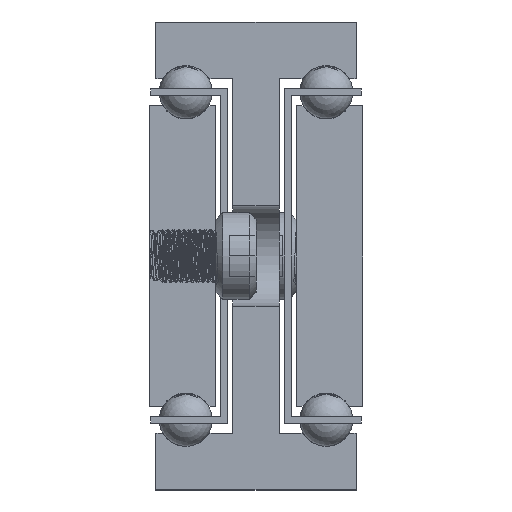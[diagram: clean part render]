
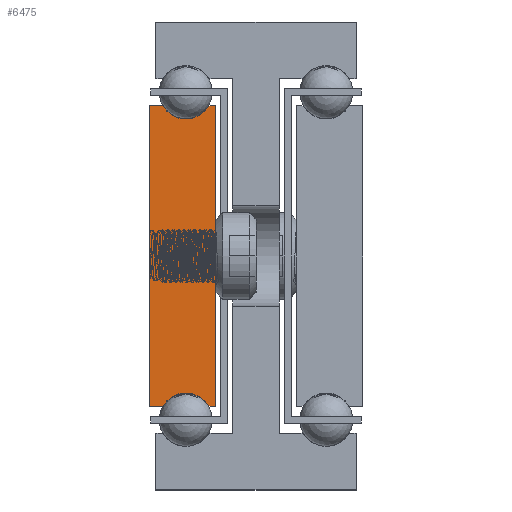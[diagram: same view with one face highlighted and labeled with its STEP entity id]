
A CAD part, front view. The second image highlights one B-rep face of the part: STEP entity #6475.
In plain terms, the highlighted planar face has unit normal (0, -1, 0).
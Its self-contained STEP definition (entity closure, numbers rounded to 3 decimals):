
#1037=CIRCLE('',#6959,4.);
#1039=CIRCLE('',#6965,4.);
#1569=FACE_OUTER_BOUND('',#1989,.T.);
#1989=EDGE_LOOP('',(#5126,#5127,#5128,#5129,#5130,#5131,#5132,#5133));
#2668=LINE('',#97193,#2880);
#2671=LINE('',#97199,#2883);
#2675=LINE('',#97211,#2887);
#2678=LINE('',#97217,#2890);
#2681=LINE('',#97223,#2893);
#2685=LINE('',#97233,#2897);
#2880=VECTOR('',#7778,1.);
#2883=VECTOR('',#7783,1.);
#2887=VECTOR('',#7795,1.);
#2890=VECTOR('',#7800,1.);
#2893=VECTOR('',#7805,1.);
#2897=VECTOR('',#7817,1.);
#3180=VERTEX_POINT('',#97190);
#3181=VERTEX_POINT('',#97192);
#3183=VERTEX_POINT('',#97198);
#3185=VERTEX_POINT('',#97204);
#3187=VERTEX_POINT('',#97210);
#3189=VERTEX_POINT('',#97216);
#3191=VERTEX_POINT('',#97222);
#3193=VERTEX_POINT('',#97228);
#4002=EDGE_CURVE('',#3181,#3180,#2668,.T.);
#4005=EDGE_CURVE('',#3183,#3181,#2671,.T.);
#4008=EDGE_CURVE('',#3185,#3183,#1037,.T.);
#4011=EDGE_CURVE('',#3187,#3185,#2675,.T.);
#4014=EDGE_CURVE('',#3189,#3187,#2678,.T.);
#4017=EDGE_CURVE('',#3191,#3189,#2681,.T.);
#4020=EDGE_CURVE('',#3193,#3191,#1039,.T.);
#4023=EDGE_CURVE('',#3180,#3193,#2685,.T.);
#5126=ORIENTED_EDGE('',*,*,#4023,.T.);
#5127=ORIENTED_EDGE('',*,*,#4020,.T.);
#5128=ORIENTED_EDGE('',*,*,#4017,.T.);
#5129=ORIENTED_EDGE('',*,*,#4014,.T.);
#5130=ORIENTED_EDGE('',*,*,#4011,.T.);
#5131=ORIENTED_EDGE('',*,*,#4008,.T.);
#5132=ORIENTED_EDGE('',*,*,#4005,.T.);
#5133=ORIENTED_EDGE('',*,*,#4002,.T.);
#6329=PLANE('',#6968);
#6475=ADVANCED_FACE('',(#1569),#6329,.T.);
#6959=AXIS2_PLACEMENT_3D('',#97205,#7789,#7790);
#6965=AXIS2_PLACEMENT_3D('',#97229,#7811,#7812);
#6968=AXIS2_PLACEMENT_3D('',#97235,#7820,#7821);
#7778=DIRECTION('',(0.,0.,-1.));
#7783=DIRECTION('',(-1.,0.,0.));
#7789=DIRECTION('center_axis',(0.,1.,0.));
#7790=DIRECTION('ref_axis',(-0.866,0.,-0.5));
#7795=DIRECTION('',(-1.,0.,0.));
#7800=DIRECTION('',(0.,0.,1.));
#7805=DIRECTION('',(1.,0.,0.));
#7811=DIRECTION('center_axis',(0.,1.,0.));
#7812=DIRECTION('ref_axis',(0.866,0.,0.5));
#7817=DIRECTION('',(1.,0.,0.));
#7820=DIRECTION('center_axis',(0.,-1.,0.));
#7821=DIRECTION('ref_axis',(1.,0.,0.));
#97190=CARTESIAN_POINT('',(-1558.372,-1237.366,-57.5));
#97192=CARTESIAN_POINT('',(-1558.372,-1237.366,-12.5));
#97193=CARTESIAN_POINT('',(-1558.372,-1237.366,-57.5));
#97198=CARTESIAN_POINT('',(-1556.337,-1237.366,-12.5));
#97199=CARTESIAN_POINT('',(-1558.372,-1237.366,-12.5));
#97204=CARTESIAN_POINT('',(-1549.408,-1237.366,-12.5));
#97205=CARTESIAN_POINT('Origin',(-1552.872,-1237.366,-10.5));
#97210=CARTESIAN_POINT('',(-1548.372,-1237.366,-12.5));
#97211=CARTESIAN_POINT('',(-1549.408,-1237.366,-12.5));
#97216=CARTESIAN_POINT('',(-1548.372,-1237.366,-57.5));
#97217=CARTESIAN_POINT('',(-1548.372,-1237.366,-12.5));
#97222=CARTESIAN_POINT('',(-1549.408,-1237.366,-57.5));
#97223=CARTESIAN_POINT('',(-1548.372,-1237.366,-57.5));
#97228=CARTESIAN_POINT('',(-1556.337,-1237.366,-57.5));
#97229=CARTESIAN_POINT('Origin',(-1552.872,-1237.366,-59.5));
#97233=CARTESIAN_POINT('',(-1556.337,-1237.366,-57.5));
#97235=CARTESIAN_POINT('Origin',(-1553.378,-1237.366,-35.));
